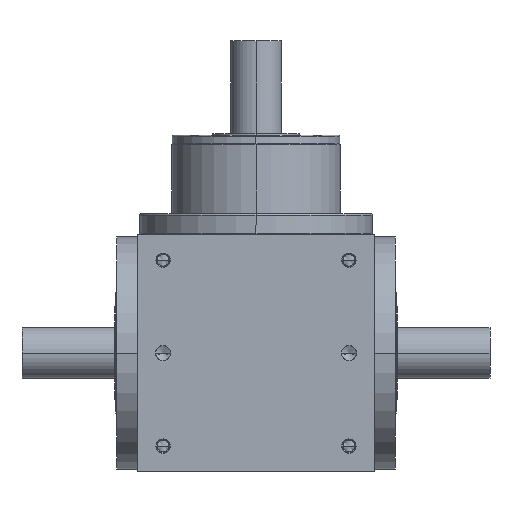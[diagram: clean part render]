
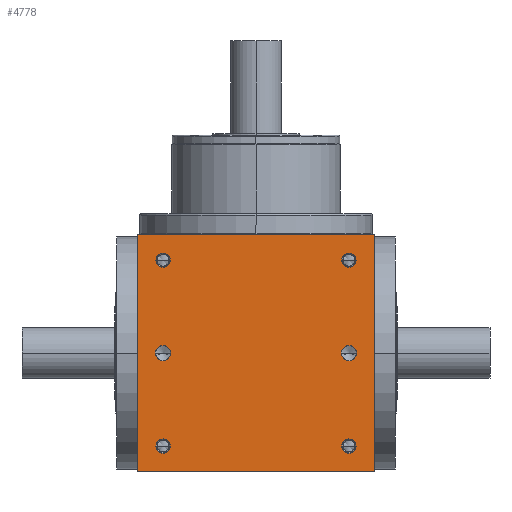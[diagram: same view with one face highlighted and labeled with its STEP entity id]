
A CAD part, front view. The second image highlights one B-rep face of the part: STEP entity #4778.
In plain terms, the highlighted planar face has unit normal (0, -1, 0).
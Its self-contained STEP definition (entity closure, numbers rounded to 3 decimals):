
#5=DIRECTION('',(1.,0.,0.));
#6=VECTOR('',#5,280.);
#7=CARTESIAN_POINT('',(-140.,-140.,-140.));
#8=LINE('',#7,#6);
#155=DIRECTION('',(0.,0.,1.));
#156=VECTOR('',#155,280.);
#157=CARTESIAN_POINT('',(140.,-140.,-140.));
#158=LINE('',#157,#156);
#209=DIRECTION('',(0.,0.,1.));
#210=VECTOR('',#209,280.);
#211=CARTESIAN_POINT('',(-140.,-140.,-140.));
#212=LINE('',#211,#210);
#213=CARTESIAN_POINT('',(110.,-140.,110.));
#214=DIRECTION('',(0.,1.,0.));
#215=DIRECTION('',(-1.,0.,0.));
#216=AXIS2_PLACEMENT_3D('',#213,#214,#215);
#218=CARTESIAN_POINT('',(110.,-140.,110.));
#219=DIRECTION('',(0.,1.,0.));
#220=DIRECTION('',(1.,0.,0.));
#221=AXIS2_PLACEMENT_3D('',#218,#219,#220);
#223=CARTESIAN_POINT('',(-110.,-140.,110.));
#224=DIRECTION('',(0.,1.,0.));
#225=DIRECTION('',(-1.,0.,0.));
#226=AXIS2_PLACEMENT_3D('',#223,#224,#225);
#228=CARTESIAN_POINT('',(-110.,-140.,110.));
#229=DIRECTION('',(0.,1.,0.));
#230=DIRECTION('',(1.,0.,0.));
#231=AXIS2_PLACEMENT_3D('',#228,#229,#230);
#233=CARTESIAN_POINT('',(110.,-140.,-110.));
#234=DIRECTION('',(0.,1.,0.));
#235=DIRECTION('',(-1.,0.,0.));
#236=AXIS2_PLACEMENT_3D('',#233,#234,#235);
#238=CARTESIAN_POINT('',(110.,-140.,-110.));
#239=DIRECTION('',(0.,1.,0.));
#240=DIRECTION('',(1.,0.,0.));
#241=AXIS2_PLACEMENT_3D('',#238,#239,#240);
#243=CARTESIAN_POINT('',(-110.,-140.,-110.));
#244=DIRECTION('',(0.,1.,0.));
#245=DIRECTION('',(-1.,0.,0.));
#246=AXIS2_PLACEMENT_3D('',#243,#244,#245);
#248=CARTESIAN_POINT('',(-110.,-140.,-110.));
#249=DIRECTION('',(0.,1.,0.));
#250=DIRECTION('',(1.,0.,0.));
#251=AXIS2_PLACEMENT_3D('',#248,#249,#250);
#253=CARTESIAN_POINT('',(-110.,-140.,0.));
#254=DIRECTION('',(0.,1.,0.));
#255=DIRECTION('',(1.,0.,0.));
#256=AXIS2_PLACEMENT_3D('',#253,#254,#255);
#258=CARTESIAN_POINT('',(-110.,-140.,0.));
#259=DIRECTION('',(0.,1.,0.));
#260=DIRECTION('',(-1.,0.,0.));
#261=AXIS2_PLACEMENT_3D('',#258,#259,#260);
#263=CARTESIAN_POINT('',(110.,-140.,0.));
#264=DIRECTION('',(0.,1.,0.));
#265=DIRECTION('',(1.,0.,0.));
#266=AXIS2_PLACEMENT_3D('',#263,#264,#265);
#268=CARTESIAN_POINT('',(110.,-140.,0.));
#269=DIRECTION('',(0.,1.,0.));
#270=DIRECTION('',(-1.,0.,0.));
#271=AXIS2_PLACEMENT_3D('',#268,#269,#270);
#285=DIRECTION('',(1.,0.,0.));
#286=VECTOR('',#285,280.);
#287=CARTESIAN_POINT('',(-140.,-140.,140.));
#288=LINE('',#287,#286);
#3814=CARTESIAN_POINT('',(-140.,-140.,-140.));
#3816=VERTEX_POINT('',#3814);
#3817=CARTESIAN_POINT('',(140.,-140.,-140.));
#3818=VERTEX_POINT('',#3817);
#3822=CARTESIAN_POINT('',(-140.,-140.,140.));
#3824=VERTEX_POINT('',#3822);
#3825=CARTESIAN_POINT('',(140.,-140.,140.));
#3826=VERTEX_POINT('',#3825);
#4005=CARTESIAN_POINT('',(101.6,-140.,110.));
#4006=CARTESIAN_POINT('',(118.4,-140.,110.));
#4007=VERTEX_POINT('',#4005);
#4008=VERTEX_POINT('',#4006);
#4013=CARTESIAN_POINT('',(-118.4,-140.,110.));
#4014=CARTESIAN_POINT('',(-101.6,-140.,110.));
#4015=VERTEX_POINT('',#4013);
#4016=VERTEX_POINT('',#4014);
#4021=CARTESIAN_POINT('',(101.6,-140.,-110.));
#4022=CARTESIAN_POINT('',(118.4,-140.,-110.));
#4023=VERTEX_POINT('',#4021);
#4024=VERTEX_POINT('',#4022);
#4029=CARTESIAN_POINT('',(-118.4,-140.,-110.));
#4030=CARTESIAN_POINT('',(-101.6,-140.,-110.));
#4031=VERTEX_POINT('',#4029);
#4032=VERTEX_POINT('',#4030);
#4389=CARTESIAN_POINT('',(-100.95,-140.,0.));
#4390=CARTESIAN_POINT('',(-119.05,-140.,0.));
#4391=VERTEX_POINT('',#4389);
#4392=VERTEX_POINT('',#4390);
#4397=CARTESIAN_POINT('',(119.05,-140.,0.));
#4398=CARTESIAN_POINT('',(100.95,-140.,0.));
#4399=VERTEX_POINT('',#4397);
#4400=VERTEX_POINT('',#4398);
#4730=CARTESIAN_POINT('',(-140.,-140.,-140.));
#4731=DIRECTION('',(0.,-1.,0.));
#4732=DIRECTION('',(1.,0.,0.));
#4733=AXIS2_PLACEMENT_3D('',#4730,#4731,#4732);
#4734=PLANE('',#4733);
#4735=ORIENTED_EDGE('',*,*,#4570,.F.);
#4736=ORIENTED_EDGE('',*,*,#4613,.T.);
#4738=ORIENTED_EDGE('',*,*,#4737,.T.);
#4739=ORIENTED_EDGE('',*,*,#4692,.F.);
#4740=EDGE_LOOP('',(#4735,#4736,#4738,#4739));
#4741=FACE_OUTER_BOUND('',#4740,.F.);
#4743=ORIENTED_EDGE('',*,*,#4742,.F.);
#4745=ORIENTED_EDGE('',*,*,#4744,.F.);
#4746=EDGE_LOOP('',(#4743,#4745));
#4747=FACE_BOUND('',#4746,.F.);
#4749=ORIENTED_EDGE('',*,*,#4748,.F.);
#4751=ORIENTED_EDGE('',*,*,#4750,.F.);
#4752=EDGE_LOOP('',(#4749,#4751));
#4753=FACE_BOUND('',#4752,.F.);
#4755=ORIENTED_EDGE('',*,*,#4754,.F.);
#4757=ORIENTED_EDGE('',*,*,#4756,.F.);
#4758=EDGE_LOOP('',(#4755,#4757));
#4759=FACE_BOUND('',#4758,.F.);
#4761=ORIENTED_EDGE('',*,*,#4760,.F.);
#4763=ORIENTED_EDGE('',*,*,#4762,.F.);
#4764=EDGE_LOOP('',(#4761,#4763));
#4765=FACE_BOUND('',#4764,.F.);
#4767=ORIENTED_EDGE('',*,*,#4766,.F.);
#4769=ORIENTED_EDGE('',*,*,#4768,.F.);
#4770=EDGE_LOOP('',(#4767,#4769));
#4771=FACE_BOUND('',#4770,.F.);
#4773=ORIENTED_EDGE('',*,*,#4772,.F.);
#4775=ORIENTED_EDGE('',*,*,#4774,.F.);
#4776=EDGE_LOOP('',(#4773,#4775));
#4777=FACE_BOUND('',#4776,.F.);
#4778=ADVANCED_FACE('',(#4741,#4747,#4753,#4759,#4765,#4771,#4777),#4734,.T.);
#217=CIRCLE('',#216,8.4);
#222=CIRCLE('',#221,8.4);
#227=CIRCLE('',#226,8.4);
#232=CIRCLE('',#231,8.4);
#237=CIRCLE('',#236,8.4);
#242=CIRCLE('',#241,8.4);
#247=CIRCLE('',#246,8.4);
#252=CIRCLE('',#251,8.4);
#257=CIRCLE('',#256,9.05);
#262=CIRCLE('',#261,9.05);
#267=CIRCLE('',#266,9.05);
#272=CIRCLE('',#271,9.05);
#4570=EDGE_CURVE('',#3816,#3818,#8,.T.);
#4613=EDGE_CURVE('',#3816,#3824,#212,.T.);
#4692=EDGE_CURVE('',#3818,#3826,#158,.T.);
#4737=EDGE_CURVE('',#3824,#3826,#288,.T.);
#4742=EDGE_CURVE('',#4007,#4008,#217,.T.);
#4744=EDGE_CURVE('',#4008,#4007,#222,.T.);
#4748=EDGE_CURVE('',#4015,#4016,#227,.T.);
#4750=EDGE_CURVE('',#4016,#4015,#232,.T.);
#4754=EDGE_CURVE('',#4023,#4024,#237,.T.);
#4756=EDGE_CURVE('',#4024,#4023,#242,.T.);
#4760=EDGE_CURVE('',#4031,#4032,#247,.T.);
#4762=EDGE_CURVE('',#4032,#4031,#252,.T.);
#4766=EDGE_CURVE('',#4391,#4392,#257,.T.);
#4768=EDGE_CURVE('',#4392,#4391,#262,.T.);
#4772=EDGE_CURVE('',#4399,#4400,#267,.T.);
#4774=EDGE_CURVE('',#4400,#4399,#272,.T.);
